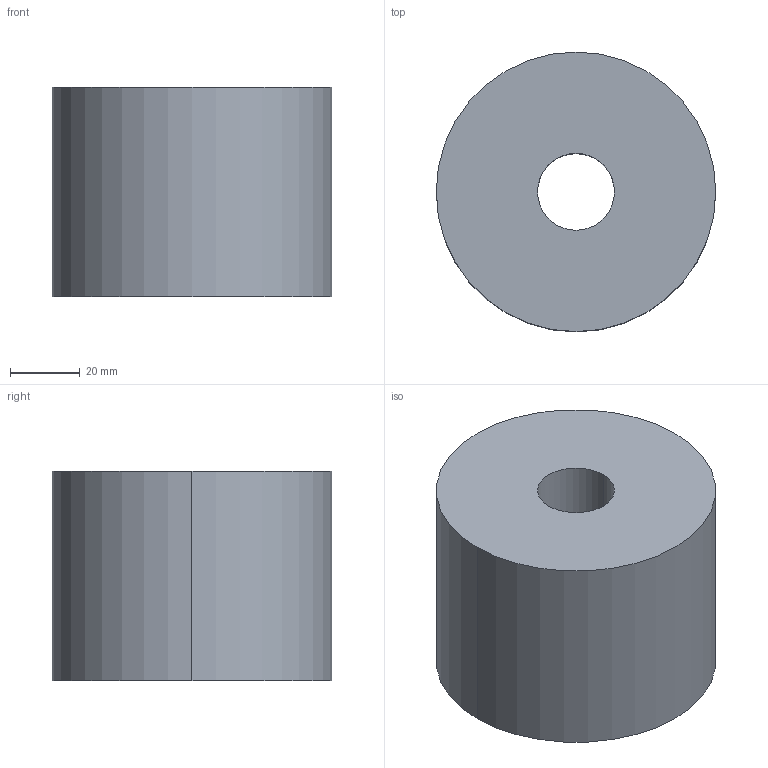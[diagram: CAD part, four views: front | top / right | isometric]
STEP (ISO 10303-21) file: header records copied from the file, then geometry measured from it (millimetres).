
FILE_DESCRIPTION(/* description */ (''),/* implementation_level */ '2;1');
FILE_NAME(/* name */ '3d_pa80-60_04919_r00.stp',/* time_stamp */ '2011-01-10T14:11:57+09:00',/* author */ ('MISUMI'),/* organization */ (''),/* preprocessor_version */ 'ST-DEVELOPER v11',/* originating_system */ 'UGS - NX 5.0',/* authorisation */ '');
FILE_SCHEMA (('CONFIG_CONTROL_DESIGN'));
Length unit declared in the file: millimetre
Products named in the file (1): 3d_pa80-60_04919_r00
Bounding box: 80 x 80 x 60 mm (x, y, z)
Volume: 278784.9 mm3; surface area: 28519.4 mm2
Topology: 1 solids, 1 shells, 6 faces, 12 edges, 8 vertices
Faces by surface type: cylinder 4, plane 2
Entity records: 254 total; most frequent: DIRECTION 34, CARTESIAN_POINT 27, ORIENTED_EDGE 24, AXIS2_PLACEMENT_3D 15, EDGE_CURVE 12, EDGE_LOOP 8, VERTEX_POINT 8, CIRCLE 8
